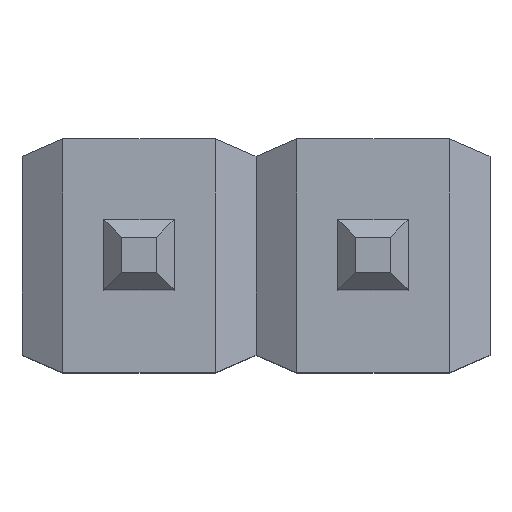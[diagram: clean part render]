
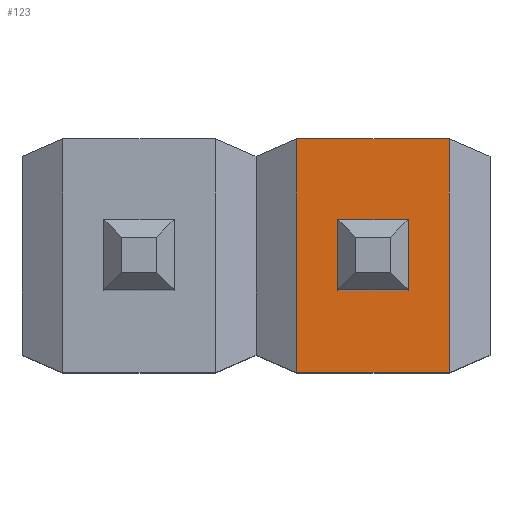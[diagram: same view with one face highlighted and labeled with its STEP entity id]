
A CAD part, top view. The second image highlights one B-rep face of the part: STEP entity #123.
In plain terms, the highlighted planar face has unit normal (0, 0, 1).
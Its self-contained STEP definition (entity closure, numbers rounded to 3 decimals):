
#95=CARTESIAN_POINT('',(3.365,1.27,2.862));
#94=VERTEX_POINT('',#95);
#105=CARTESIAN_POINT('',(3.365,-1.27,2.862));
#104=VERTEX_POINT('',#105);
#103=EDGE_CURVE('',#104,#94,#108,.T.);
#108=LINE('',#105,#110);
#110=VECTOR('',#111,2.54);
#111=DIRECTION('',(0.0,1.0,0.0));
#123=ADVANCED_FACE('',(#129),#124,.T.);
#124=PLANE('',#125);
#125=AXIS2_PLACEMENT_3D('',#126,#127,#128);
#126=CARTESIAN_POINT('',(1.715,-1.27,2.862));
#127=DIRECTION('',(0.0,0.0,1.0));
#128=DIRECTION('',(0.,1.,0.));
#129=FACE_OUTER_BOUND('',#130,.T.);
#130=EDGE_LOOP('',(#131,#141,#151,#161));
#136=CARTESIAN_POINT('',(1.715,-1.27,2.862));
#135=VERTEX_POINT('',#136);
#132=EDGE_CURVE('',#104,#135,#137,.T.);
#137=LINE('',#105,#139);
#139=VECTOR('',#140,1.651);
#140=DIRECTION('',(-1.0,0.0,0.0));
#131=ORIENTED_EDGE('',*,*,#132,.F.);
#141=ORIENTED_EDGE('',*,*,#103,.T.);
#154=CARTESIAN_POINT('',(1.715,1.27,2.862));
#153=VERTEX_POINT('',#154);
#152=EDGE_CURVE('',#153,#94,#157,.T.);
#157=LINE('',#154,#159);
#159=VECTOR('',#160,1.651);
#160=DIRECTION('',(1.0,0.0,0.0));
#151=ORIENTED_EDGE('',*,*,#152,.F.);
#162=EDGE_CURVE('',#135,#153,#167,.T.);
#167=LINE('',#136,#169);
#169=VECTOR('',#170,2.54);
#170=DIRECTION('',(0.0,1.0,0.0));
#161=ORIENTED_EDGE('',*,*,#162,.F.);
